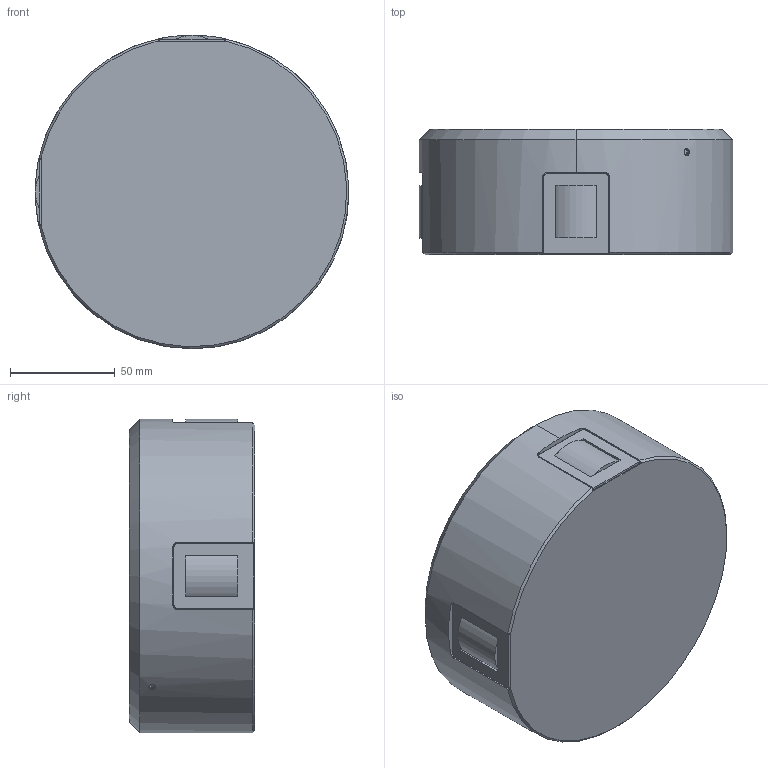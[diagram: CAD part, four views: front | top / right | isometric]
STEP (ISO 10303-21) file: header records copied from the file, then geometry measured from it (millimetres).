
FILE_DESCRIPTION (( 'STEP AP214' ), '1' );
FILE_NAME ('ﾑﾄﾑ RAD-CRUX-B-V1_LIB.STEP', '2023-02-27T21:34:08', ( '' ), ( '' ), 'SwSTEP 2.0', 'SolidWorks 2020', '' );
FILE_SCHEMA (( 'AUTOMOTIVE_DESIGN' ));
Length unit declared in the file: millimetre
Products named in the file (1): ﾑﾄﾑ RAD-CRUX-B-V1_LIB
Bounding box: 150 x 60 x 150 mm (x, y, z)
Volume: 1051543.9 mm3; surface area: 62519 mm2
Topology: 1 solids, 1 shells, 127 faces, 329 edges, 216 vertices
Faces by surface type: plane 84, cylinder 30, bspline 8, cone 5
Entity records: 4147 total; most frequent: CARTESIAN_POINT 1065, ORIENTED_EDGE 658, DIRECTION 583, EDGE_CURVE 329, VECTOR 227, LINE 227, VERTEX_POINT 216, AXIS2_PLACEMENT_3D 178
